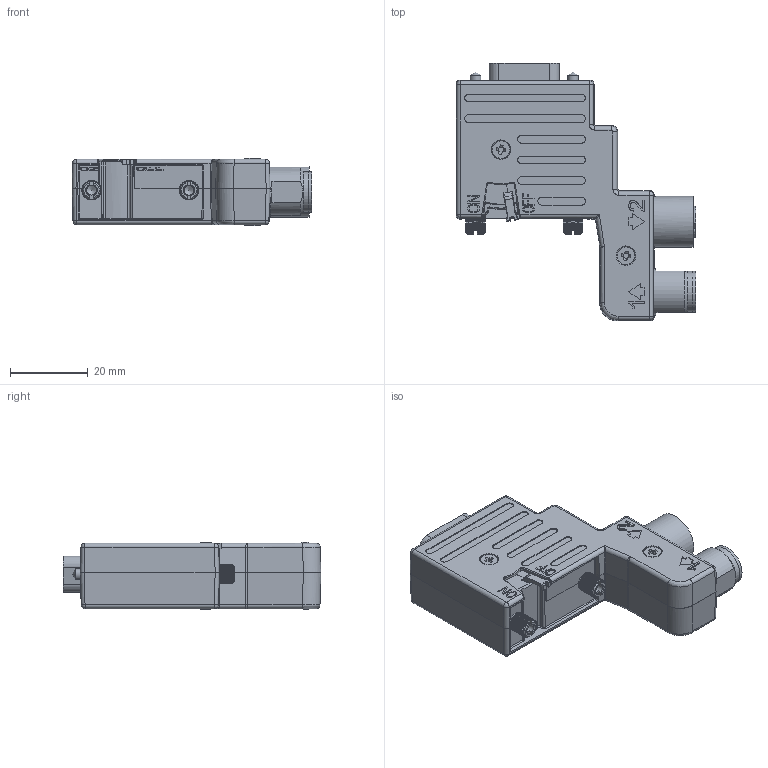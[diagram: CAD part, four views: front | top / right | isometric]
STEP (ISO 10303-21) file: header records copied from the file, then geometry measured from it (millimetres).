
FILE_DESCRIPTION(/* description */ (''),/* implementation_level */ '2;1');
FILE_NAME(/* name */ '40-1491122-XDC-BG_02_Kunden.stp',/* time_stamp */ '2013-12-03T08:02:40+01:00',/* author */ (''),/* organization */ (''),/* preprocessor_version */ 'ST-DEVELOPER v11',/* originating_system */ 'SIEMENS PLM Software NX 7.5',/* authorisation */ '');
FILE_SCHEMA (('AUTOMOTIVE_DESIGN { 1 0 10303 214 1 1 1 1 }'));
Products named in the file (1): Schu80C07wk1
Bounding box: 61.55 x 66.12 x 17.4 mm (x, y, z)
Volume: 30110.7 mm3; surface area: 15210.6 mm2
Topology: 1 solids, 13 shells, 2324 faces, 6328 edges, 4048 vertices
Faces by surface type: plane 1352, cylinder 492, bspline 182, cone 98, extrusion 92, torus 68, sphere 40
Full cylindrical faces by diameter (mm): 0.95 x1, 1 x9, 1.1 x5, 1.95 x5, 2.05 x1, 2.2 x10, 2.5 x2, 2.72 x2, 3 x1, 3.2 x2, 4.5 x2, 4.8 x2, 5 x2, 8.35 x1, 9.5 x1, 10.5 x2, 10.8 x1, 11 x1, 12 x1, 13 x1
Entity records: 83067 total; most frequent: CARTESIAN_POINT 19816, ORIENTED_EDGE 12264, DIRECTION 10924, EDGE_CURVE 6132, VERTEX_POINT 3986, AXIS2_PLACEMENT_3D 3649, VECTOR 3626, LINE 3534
